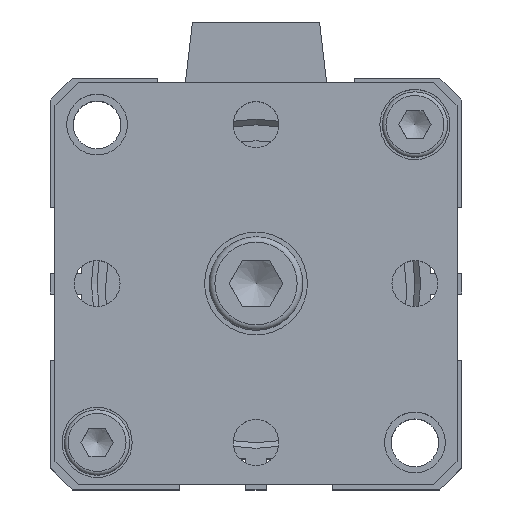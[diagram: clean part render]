
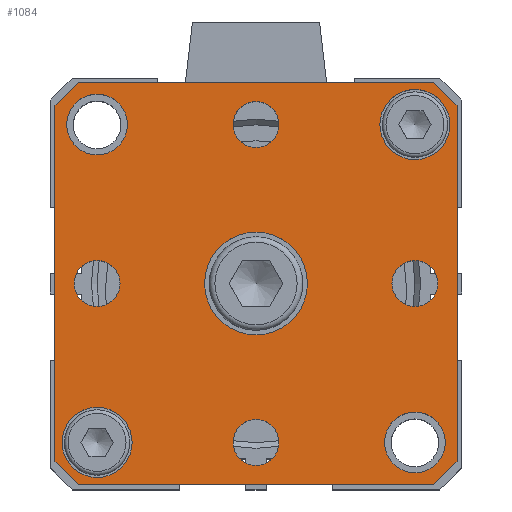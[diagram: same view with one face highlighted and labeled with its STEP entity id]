
A CAD part, top view. The second image highlights one B-rep face of the part: STEP entity #1084.
In plain terms, the highlighted planar face has unit normal (0, 0, 1).
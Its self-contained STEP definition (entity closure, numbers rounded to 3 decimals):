
#290=CARTESIAN_POINT('',(-16.976,-17.12,51.5));
#291=VERTEX_POINT('',#290);
#292=CARTESIAN_POINT('',(-20.726,-17.12,51.5));
#293=DIRECTION('',(0.0,0.0,-1.0));
#294=DIRECTION('',(1.0,0.0,0.0));
#295=AXIS2_PLACEMENT_3D('',#292,#293,#294);
#296=CIRCLE('',#295,3.75);
#297=EDGE_CURVE('',#291,#291,#296,.T.);
#392=CARTESIAN_POINT('',(17.024,16.88,51.5));
#393=VERTEX_POINT('',#392);
#394=CARTESIAN_POINT('',(13.274,16.88,51.5));
#395=DIRECTION('',(0.0,0.0,-1.0));
#396=DIRECTION('',(1.0,0.0,0.0));
#397=AXIS2_PLACEMENT_3D('',#394,#395,#396);
#398=CIRCLE('',#397,3.75);
#399=EDGE_CURVE('',#393,#393,#398,.T.);
#477=CARTESIAN_POINT('',(15.733,-0.12,51.5));
#478=VERTEX_POINT('',#477);
#479=CARTESIAN_POINT('',(13.274,-0.12,51.5));
#480=DIRECTION('',(0.0,0.0,-1.0));
#481=DIRECTION('',(1.0,0.0,0.0));
#482=AXIS2_PLACEMENT_3D('',#479,#480,#481);
#483=CIRCLE('',#482,2.459);
#484=EDGE_CURVE('',#478,#478,#483,.T.);
#526=CARTESIAN_POINT('',(-1.267,-17.12,51.5));
#527=VERTEX_POINT('',#526);
#528=CARTESIAN_POINT('',(-3.726,-17.12,51.5));
#529=DIRECTION('',(0.0,0.0,-1.0));
#530=DIRECTION('',(1.0,0.0,0.0));
#531=AXIS2_PLACEMENT_3D('',#528,#529,#530);
#532=CIRCLE('',#531,2.459);
#533=EDGE_CURVE('',#527,#527,#532,.T.);
#575=CARTESIAN_POINT('',(-18.267,-0.12,51.5));
#576=VERTEX_POINT('',#575);
#577=CARTESIAN_POINT('',(-20.726,-0.12,51.5));
#578=DIRECTION('',(0.0,0.0,-1.0));
#579=DIRECTION('',(1.0,0.0,0.0));
#580=AXIS2_PLACEMENT_3D('',#577,#578,#579);
#581=CIRCLE('',#580,2.459);
#582=EDGE_CURVE('',#576,#576,#581,.T.);
#624=CARTESIAN_POINT('',(-1.267,16.88,51.5));
#625=VERTEX_POINT('',#624);
#626=CARTESIAN_POINT('',(-3.726,16.88,51.5));
#627=DIRECTION('',(0.0,0.0,-1.0));
#628=DIRECTION('',(1.0,0.0,0.0));
#629=AXIS2_PLACEMENT_3D('',#626,#627,#628);
#630=CIRCLE('',#629,2.459);
#631=EDGE_CURVE('',#625,#625,#630,.T.);
#690=CARTESIAN_POINT('',(1.774,-0.12,51.5));
#691=VERTEX_POINT('',#690);
#692=CARTESIAN_POINT('',(-3.726,-0.12,51.5));
#693=DIRECTION('',(0.0,0.0,-1.0));
#694=DIRECTION('',(1.0,0.0,0.0));
#695=AXIS2_PLACEMENT_3D('',#692,#693,#694);
#696=CIRCLE('',#695,5.5);
#697=EDGE_CURVE('',#691,#691,#696,.T.);
#743=CARTESIAN_POINT('',(16.524,-17.12,51.5));
#744=VERTEX_POINT('',#743);
#745=CARTESIAN_POINT('',(13.274,-17.12,51.5));
#746=DIRECTION('',(0.0,0.0,-1.0));
#747=DIRECTION('',(-1.0,0.0,0.0));
#748=AXIS2_PLACEMENT_3D('',#745,#746,#747);
#749=CIRCLE('',#748,3.25);
#750=EDGE_CURVE('',#744,#744,#749,.T.);
#771=CARTESIAN_POINT('',(-17.476,16.88,51.5));
#772=VERTEX_POINT('',#771);
#773=CARTESIAN_POINT('',(-20.726,16.88,51.5));
#774=DIRECTION('',(0.0,0.0,-1.0));
#775=DIRECTION('',(-1.0,0.0,0.0));
#776=AXIS2_PLACEMENT_3D('',#773,#774,#775);
#777=CIRCLE('',#776,3.25);
#778=EDGE_CURVE('',#772,#772,#777,.T.);
#799=CARTESIAN_POINT('',(-22.726,21.38,51.5));
#800=VERTEX_POINT('',#799);
#801=CARTESIAN_POINT('',(15.274,21.38,51.5));
#802=VERTEX_POINT('',#801);
#803=CARTESIAN_POINT('',(-22.726,21.38,51.5));
#804=DIRECTION('',(1.0,0.0,0.0));
#805=VECTOR('',#804,38.);
#806=LINE('',#803,#805);
#807=EDGE_CURVE('',#800,#802,#806,.T.);
#839=CARTESIAN_POINT('',(17.774,18.88,51.5));
#840=VERTEX_POINT('',#839);
#841=CARTESIAN_POINT('',(15.274,21.38,51.5));
#842=DIRECTION('',(0.707,-0.707,0.0));
#843=VECTOR('',#842,3.536);
#844=LINE('',#841,#843);
#845=EDGE_CURVE('',#802,#840,#844,.T.);
#870=CARTESIAN_POINT('',(17.774,-19.12,51.5));
#871=VERTEX_POINT('',#870);
#872=CARTESIAN_POINT('',(17.774,18.88,51.5));
#873=DIRECTION('',(0.0,-1.0,0.0));
#874=VECTOR('',#873,38.);
#875=LINE('',#872,#874);
#876=EDGE_CURVE('',#840,#871,#875,.T.);
#901=CARTESIAN_POINT('',(15.274,-21.62,51.5));
#902=VERTEX_POINT('',#901);
#903=CARTESIAN_POINT('',(17.774,-19.12,51.5));
#904=DIRECTION('',(-0.707,-0.707,0.0));
#905=VECTOR('',#904,3.536);
#906=LINE('',#903,#905);
#907=EDGE_CURVE('',#871,#902,#906,.T.);
#932=CARTESIAN_POINT('',(-22.726,-21.62,51.5));
#933=VERTEX_POINT('',#932);
#934=CARTESIAN_POINT('',(15.274,-21.62,51.5));
#935=DIRECTION('',(-1.0,0.0,0.0));
#936=VECTOR('',#935,38.);
#937=LINE('',#934,#936);
#938=EDGE_CURVE('',#902,#933,#937,.T.);
#963=CARTESIAN_POINT('',(-25.226,-19.12,51.5));
#964=VERTEX_POINT('',#963);
#965=CARTESIAN_POINT('',(-22.726,-21.62,51.5));
#966=DIRECTION('',(-0.707,0.707,0.0));
#967=VECTOR('',#966,3.536);
#968=LINE('',#965,#967);
#969=EDGE_CURVE('',#933,#964,#968,.T.);
#994=CARTESIAN_POINT('',(-25.226,18.88,51.5));
#995=VERTEX_POINT('',#994);
#996=CARTESIAN_POINT('',(-25.226,-19.12,51.5));
#997=DIRECTION('',(0.0,1.0,0.0));
#998=VECTOR('',#997,38.);
#999=LINE('',#996,#998);
#1000=EDGE_CURVE('',#964,#995,#999,.T.);
#1025=CARTESIAN_POINT('',(-25.226,18.88,51.5));
#1026=DIRECTION('',(0.707,0.707,0.0));
#1027=VECTOR('',#1026,3.536);
#1028=LINE('',#1025,#1027);
#1029=EDGE_CURVE('',#995,#800,#1028,.T.);
#1042=CARTESIAN_POINT('',(-3.726,-0.12,51.5));
#1043=DIRECTION('',(0.0,0.0,1.0));
#1044=DIRECTION('',(1.0,0.0,0.0));
#1045=AXIS2_PLACEMENT_3D('',#1042,#1043,#1044);
#1046=PLANE('',#1045);
#1047=ORIENTED_EDGE('',*,*,#807,.F.);
#1048=ORIENTED_EDGE('',*,*,#1029,.F.);
#1049=ORIENTED_EDGE('',*,*,#1000,.F.);
#1050=ORIENTED_EDGE('',*,*,#969,.F.);
#1051=ORIENTED_EDGE('',*,*,#938,.F.);
#1052=ORIENTED_EDGE('',*,*,#907,.F.);
#1053=ORIENTED_EDGE('',*,*,#876,.F.);
#1054=ORIENTED_EDGE('',*,*,#845,.F.);
#1055=EDGE_LOOP('',(#1047,#1048,#1049,#1050,#1051,#1052,#1053,#1054));
#1056=FACE_OUTER_BOUND('',#1055,.T.);
#1057=ORIENTED_EDGE('',*,*,#297,.T.);
#1058=EDGE_LOOP('',(#1057));
#1059=FACE_BOUND('',#1058,.T.);
#1060=ORIENTED_EDGE('',*,*,#399,.T.);
#1061=EDGE_LOOP('',(#1060));
#1062=FACE_BOUND('',#1061,.T.);
#1063=ORIENTED_EDGE('',*,*,#484,.T.);
#1064=EDGE_LOOP('',(#1063));
#1065=FACE_BOUND('',#1064,.T.);
#1066=ORIENTED_EDGE('',*,*,#533,.T.);
#1067=EDGE_LOOP('',(#1066));
#1068=FACE_BOUND('',#1067,.T.);
#1069=ORIENTED_EDGE('',*,*,#582,.T.);
#1070=EDGE_LOOP('',(#1069));
#1071=FACE_BOUND('',#1070,.T.);
#1072=ORIENTED_EDGE('',*,*,#631,.T.);
#1073=EDGE_LOOP('',(#1072));
#1074=FACE_BOUND('',#1073,.T.);
#1075=ORIENTED_EDGE('',*,*,#697,.T.);
#1076=EDGE_LOOP('',(#1075));
#1077=FACE_BOUND('',#1076,.T.);
#1078=ORIENTED_EDGE('',*,*,#750,.T.);
#1079=EDGE_LOOP('',(#1078));
#1080=FACE_BOUND('',#1079,.T.);
#1081=ORIENTED_EDGE('',*,*,#778,.T.);
#1082=EDGE_LOOP('',(#1081));
#1083=FACE_BOUND('',#1082,.T.);
#1084=ADVANCED_FACE('',(#1056,#1059,#1062,#1065,#1068,#1071,#1074,#1077,#1080,#1083),#1046,.T.);
